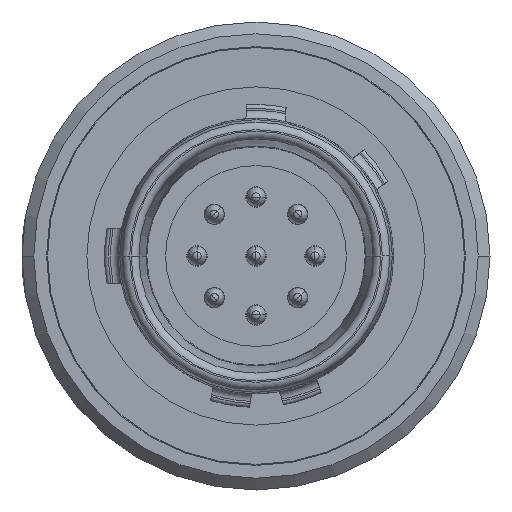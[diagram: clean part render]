
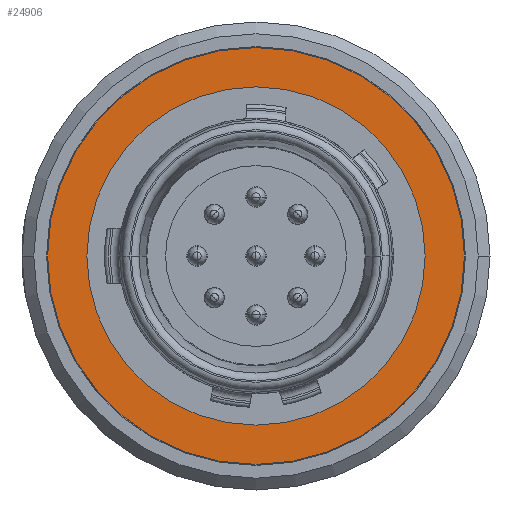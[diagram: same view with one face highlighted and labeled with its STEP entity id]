
A CAD part, left-side view. The second image highlights one B-rep face of the part: STEP entity #24906.
In plain terms, the highlighted planar face has unit normal (-1, 0, 0).
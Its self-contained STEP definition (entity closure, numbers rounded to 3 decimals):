
#7913=CARTESIAN_POINT('',(-7.51,0.,0.));
#7914=DIRECTION('',(-1.,0.,0.));
#7915=DIRECTION('',(0.,-1.,0.));
#7916=AXIS2_PLACEMENT_3D('',#7913,#7914,#7915);
#8032=CARTESIAN_POINT('',(-7.51,0.,0.));
#8033=DIRECTION('',(1.,0.,0.));
#8034=DIRECTION('',(0.,-1.,0.));
#8035=AXIS2_PLACEMENT_3D('',#8032,#8033,#8034);
#8037=CARTESIAN_POINT('',(-7.51,0.,0.));
#8038=DIRECTION('',(1.,0.,0.));
#8039=DIRECTION('',(0.,-1.,0.));
#8040=AXIS2_PLACEMENT_3D('',#8037,#8038,#8039);
#8042=CARTESIAN_POINT('',(-7.51,0.,0.));
#8043=DIRECTION('',(-1.,0.,0.));
#8044=DIRECTION('',(0.,-1.,0.));
#8045=AXIS2_PLACEMENT_3D('',#8042,#8043,#8044);
#16414=CARTESIAN_POINT('',(-7.51,-4.3,0.));
#16415=CARTESIAN_POINT('',(-7.51,4.3,0.));
#16416=VERTEX_POINT('',#16414);
#16417=VERTEX_POINT('',#16415);
#16418=CARTESIAN_POINT('',(-7.51,-5.3,0.));
#16419=CARTESIAN_POINT('',(-7.51,5.3,0.));
#16420=VERTEX_POINT('',#16418);
#16421=VERTEX_POINT('',#16419);
#24891=CARTESIAN_POINT('',(-7.51,0.,0.));
#24892=DIRECTION('',(1.,0.,0.));
#24893=DIRECTION('',(0.,-1.,0.));
#24894=AXIS2_PLACEMENT_3D('',#24891,#24892,#24893);
#24895=PLANE('',#24894);
#24896=ORIENTED_EDGE('',*,*,#24857,.F.);
#24897=ORIENTED_EDGE('',*,*,#24878,.T.);
#24898=EDGE_LOOP('',(#24896,#24897));
#24899=FACE_OUTER_BOUND('',#24898,.F.);
#24901=ORIENTED_EDGE('',*,*,#24900,.F.);
#24903=ORIENTED_EDGE('',*,*,#24902,.T.);
#24904=EDGE_LOOP('',(#24901,#24903));
#24905=FACE_BOUND('',#24904,.F.);
#7917=CIRCLE('',#7916,5.3);
#8036=CIRCLE('',#8035,5.3);
#8041=CIRCLE('',#8040,4.3);
#8046=CIRCLE('',#8045,4.3);
#24857=EDGE_CURVE('',#16420,#16421,#7917,.T.);
#24878=EDGE_CURVE('',#16420,#16421,#8036,.T.);
#24900=EDGE_CURVE('',#16416,#16417,#8041,.T.);
#24902=EDGE_CURVE('',#16416,#16417,#8046,.T.);
#24906=ADVANCED_FACE('',(#24899,#24905),#24895,.F.);
